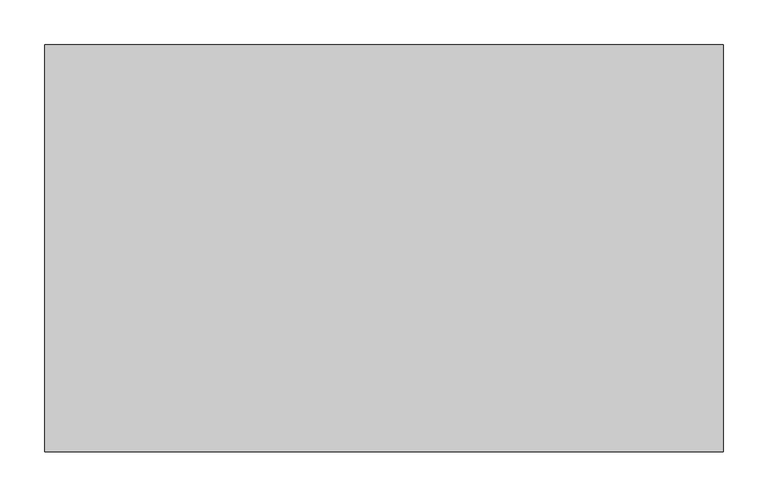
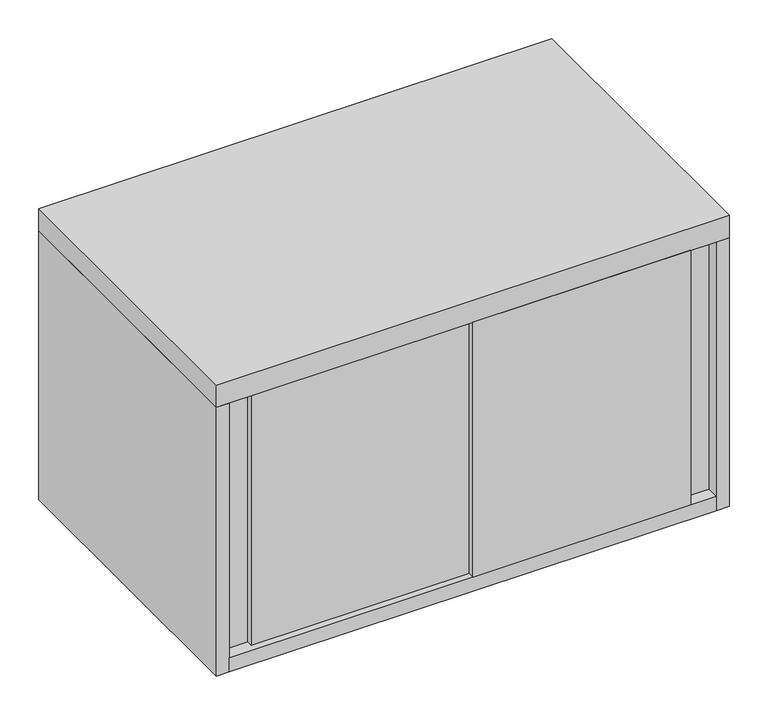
"""IFC4 building model written with IfcOpenShell, lengths in millimetres: furniture geometry, Steelcase - 900 Series - Storage - Overfile Cabinet - Flush Steel : With Sliding Door - 30W x 18H."""

from ifc_helpers import new_model, si_unit, frame, origin, place, context, project, spatial, polyline, outline, extrude, source, transform, mapped, element, save


def furniture_f7c0ffdf(model_context):
    return source(origin(), model_context, "Body", "SweptSolid", [
        extrude(outline(polyline([(381.0, -457.2), (381.0, -431.8), (742.6960184, -431.8), (742.6960184, -438.15), (704.5960184, -438.15), (704.5960184, -457.2), (381.0, -457.2)])), frame((0.0, 0.0, 1611.5029516), z_axis=(0.0, 0.0, 1.0), x_axis=(1.0, 0.0, 0.0)), (0.0, 0.0, 1.0), 400.05),
        extrude(outline(polyline([(19.3039998, -431.8), (381.0, -431.8), (381.0, -447.675), (57.1499992, -447.675), (57.1499992, -438.15), (19.3039998, -438.15), (19.3039998, -431.8)])), frame((0.0, 0.0, 1611.5029516), z_axis=(0.0, 0.0, 1.0), x_axis=(1.0, 0.0, 0.0)), (0.0, 0.0, 1.0), 400.05),
        extrude(outline(polyline([(742.6960184, -6.3500002), (742.6960184, -457.2), (19.3039998, -457.2), (19.3039998, -6.3500002), (742.6960184, -6.3500002)])), frame((0.0, 0.0, 1589.278), z_axis=(0.0, 0.0, 1.0), x_axis=(1.0, 0.0, 0.0)), (0.0, 0.0, 1.0), 22.2249516),
        extrude(outline(polyline([(762.0, 0.0), (762.0, -457.2), (0.0, -457.2), (0.0, 0.0), (762.0, 0.0)])), frame((0.0, 0.0, 2011.5529516), z_axis=(0.0, 0.0, 1.0), x_axis=(1.0, 0.0, 0.0)), (0.0, 0.0, 1.0), 34.9250484),
        extrude(outline(polyline([(742.6960184, -6.3500002), (19.3039998, -6.3500002), (19.3039998, -457.2), (0.0, -457.2), (0.0, 0.0), (762.0, 0.0), (762.0, -457.2), (742.6960184, -457.2), (742.6960184, -6.3500002)])), frame((0.0, 0.0, 1589.278), z_axis=(0.0, 0.0, 1.0), x_axis=(1.0, 0.0, 0.0)), (0.0, 0.0, 1.0), 422.2749516),
    ])


if __name__ == "__main__":
    model = new_model("IFC4")
    model_context = context("Model", 3, world=origin())
    ifc_project = project(units=[si_unit("LENGTHUNIT", "METRE", prefix="MILLI")], contexts=[model_context])
    site = spatial("IfcSite", under=ifc_project)
    building = spatial("IfcBuilding", under=site)
    placement = place(None, origin())
    furniture_shape = furniture_f7c0ffdf(model_context)
    element("IfcFurniture", 1, ObjectType="Steelcase - 900 Series - Storage - Overfile Cabinet - Flush Steel : With Sliding Door - 30W x 18H", at=placement, inside=building, context=model_context, shape_type="MappedRepresentation", body=[
        mapped(furniture_shape, transform((0.0, 0.0, 0.0), x_axis=(1.0, 0.0, 0.0), y_axis=(0.0, 1.0, 0.0), z_axis=(0.0, 0.0, 1.0))),
    ])
    save(model, "model.ifc")
